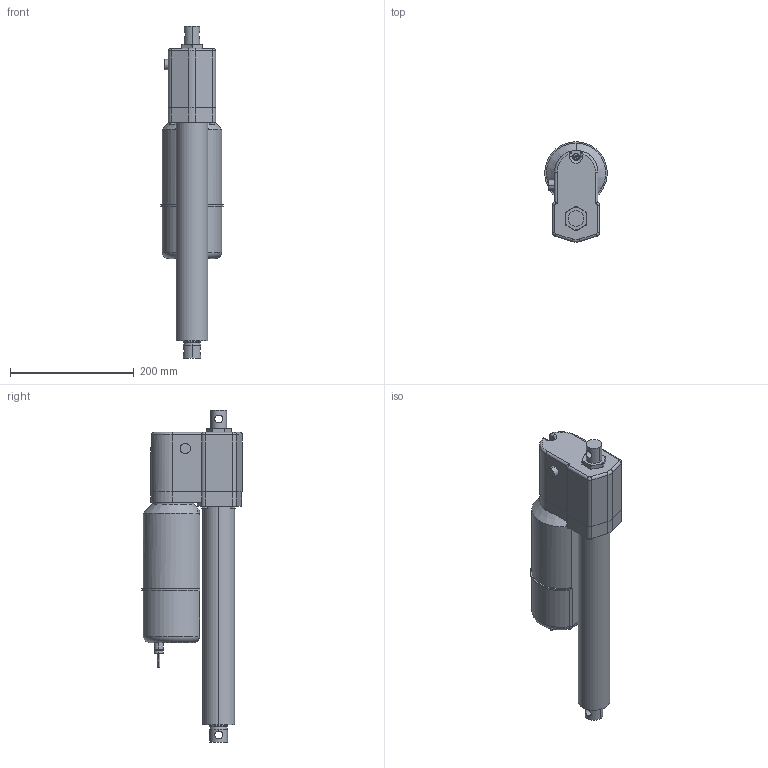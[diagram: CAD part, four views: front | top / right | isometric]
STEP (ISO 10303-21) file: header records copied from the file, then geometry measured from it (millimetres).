
FILE_DESCRIPTION (( 'STEP AP214' ), '1' );
FILE_NAME ('A42-05B5-10M0NPO-tollo.step', '2020-04-06T19:03:24', ( '' ), ( '' ), 'SwSTEP 2.0', 'SolidWorks 2010', '' );
FILE_SCHEMA (( 'AUTOMOTIVE_DESIGN' ));
Length unit declared in the file: millimetre
Products named in the file (7): Electrak-LA5-Motor-A42-05B5-10M0NPO-tollo_Electrak-LA5-Motor-A42-05B5-10M0NPO-tollo; Electrak-LA5-Rear-A42-05B5-10M0NPO-tollo_Electrak-LA5-Rear-A42-05B5-10M0NPO-tollo; Electrak-LA5-Tube-A42-05B5-10M0NPO-tollo_Electrak-LA5-Tube-A42-05B5-10M0NPO-tollo; Electrak-LA5-Rod-A42-05B5-10M0NPO-tollo_Electrak-LA5-Rod-A42-05B5-10M0NPO-tollo; Screw-MFX-H-M5-A42-05B5-10M0NPO-tollo_Screw-MFX-H-M5-A42-05B5-10M0NPO-tollo; Screw-M6S-M5-A42-05B5-10M0NPO-tollo_Screw-M6S-M5-A42-05B5-10M0NPO-tollo; A42-05B5-10M0NPO-tollo
Assembly tree (9 placements, depth 2):
  A42-05B5-10M0NPO-tollo
    Electrak-LA5-Tube-A42-05B5-10M0NPO-tollo_Electrak-LA5-Tube-A42-05B5-10M0NPO-tollo
    Screw-M6S-M5-A42-05B5-10M0NPO-tollo_Screw-M6S-M5-A42-05B5-10M0NPO-tollo  x4
    Electrak-LA5-Rod-A42-05B5-10M0NPO-tollo_Electrak-LA5-Rod-A42-05B5-10M0NPO-tollo
    Electrak-LA5-Motor-A42-05B5-10M0NPO-tollo_Electrak-LA5-Motor-A42-05B5-10M0NPO-tollo
    Electrak-LA5-Rear-A42-05B5-10M0NPO-tollo_Electrak-LA5-Rear-A42-05B5-10M0NPO-tollo
    Screw-MFX-H-M5-A42-05B5-10M0NPO-tollo_Screw-MFX-H-M5-A42-05B5-10M0NPO-tollo
Bounding box: 100.99 x 162.5 x 535.6 mm (x, y, z)
Volume: 3417801.6 mm3; surface area: 294192.8 mm2
Topology: 9 solids, 9 shells, 311 faces, 723 edges, 449 vertices
Faces by surface type: cylinder 136, plane 96, cone 58, torus 16, bspline 3, sphere 2
Entity records: 7552 total; most frequent: CARTESIAN_POINT 2023, DIRECTION 1143, ORIENTED_EDGE 1006, EDGE_CURVE 503, AXIS2_PLACEMENT_3D 462, VERTEX_POINT 314, EDGE_LOOP 251, CIRCLE 235
